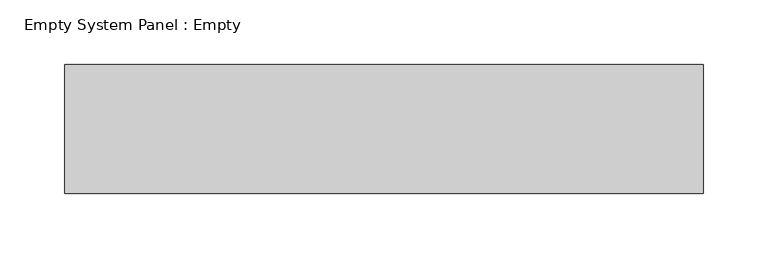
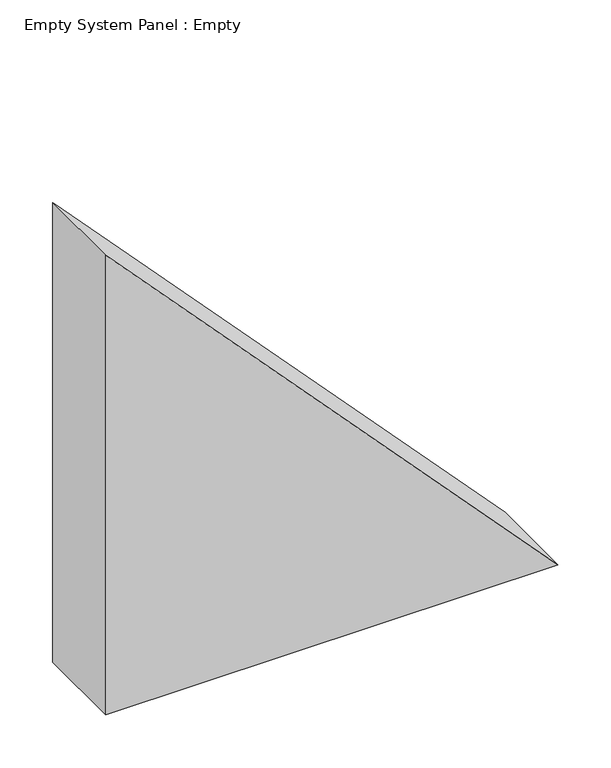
"""IFC4 building model written with IfcOpenShell, lengths in millimetres: plate geometry, Empty System Panel : Empty."""

from ifc_helpers import new_model, si_unit, frame, origin, place, context, project, spatial, polyline, outline, extrude, source, transform, mapped, element, save


def empty_system_panel_empty_445259b6(model_context):
    return source(origin(), model_context, "Body", "SweptSolid", [
        extrude(outline(polyline([(0.0, -247.2855471), (0.0, 247.2855471), (531.2544975, -247.2855471), (0.0, -247.2855471)])), frame((0.0, -50.0, 0.0), z_axis=(0.0, 1.0, 0.0), x_axis=(0.0, 0.0, 1.0)), (0.0, 0.0, 1.0), 100.0),
    ])


if __name__ == "__main__":
    model = new_model("IFC4")
    model_context = context("Model", 3, world=origin())
    ifc_project = project(units=[si_unit("LENGTHUNIT", "METRE", prefix="MILLI")], contexts=[model_context])
    site = spatial("IfcSite", under=ifc_project)
    building = spatial("IfcBuilding", under=site)
    placement = place(None, origin())
    empty_system_panel_empty_shape = empty_system_panel_empty_445259b6(model_context)
    element("IfcPlate", 1, ObjectType="Empty System Panel : Empty", at=placement, inside=building, context=model_context, shape_type="MappedRepresentation", body=[
        mapped(empty_system_panel_empty_shape, transform((0.0, 0.0, 0.0), x_axis=(1.0, 0.0, 0.0), y_axis=(0.0, 1.0, 0.0), z_axis=(0.0, 0.0, 1.0))),
    ])
    save(model, "model.ifc")
